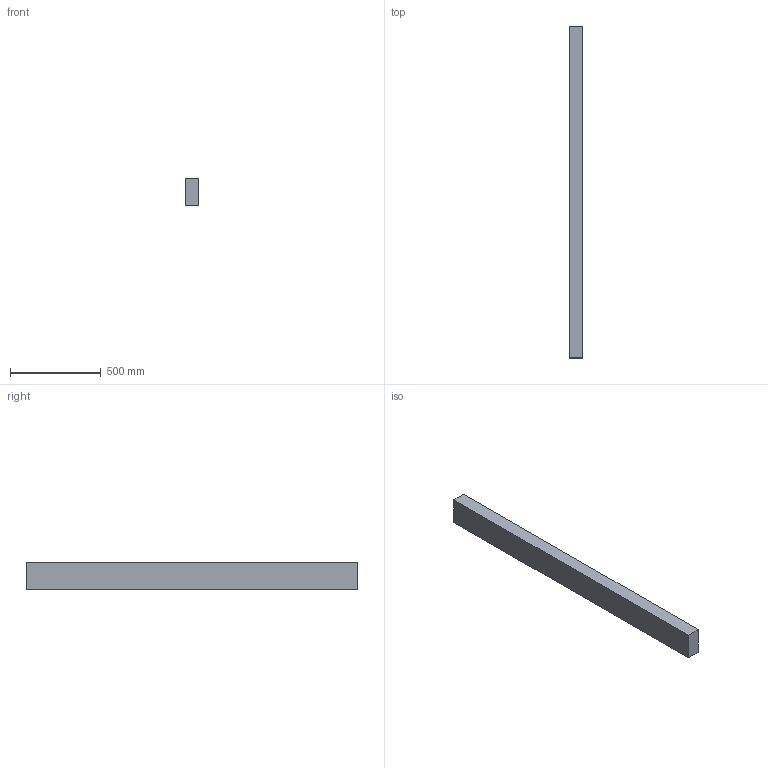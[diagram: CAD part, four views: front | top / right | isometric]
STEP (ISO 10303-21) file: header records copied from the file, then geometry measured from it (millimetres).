
FILE_DESCRIPTION(/* description */ (''),/* implementation_level */ '2;1');
FILE_NAME(/* name */ '3x6x72',/* time_stamp */ '2024-09-20T11:43:42-05:00',/* author */ (''),/* organization */ (''),/* preprocessor_version */ 'ST-DEVELOPER v19.2',/* originating_system */ 'Rhino 8.5',/* authorisation */ '');
FILE_SCHEMA (('CONFIG_CONTROL_DESIGN'));
Length unit declared in the file: inch
Products named in the file (1): Document
Bounding box: 76.2 x 1828.8 x 152.4 mm (x, y, z)
Volume: 21237634.9 mm3; surface area: 859353.1 mm2
Topology: 1 solids, 1 shells, 6 faces, 12 edges, 8 vertices
Faces by surface type: plane 6
Entity records: 226 total; most frequent: CARTESIAN_POINT 40, ORIENTED_EDGE 24, EDGE_CURVE 12, B_SPLINE_CURVE_WITH_KNOTS 12, DIRECTION 10, VERTEX_POINT 8, AXIS2_PLACEMENT_3D 8, ORGANIZATION 7
